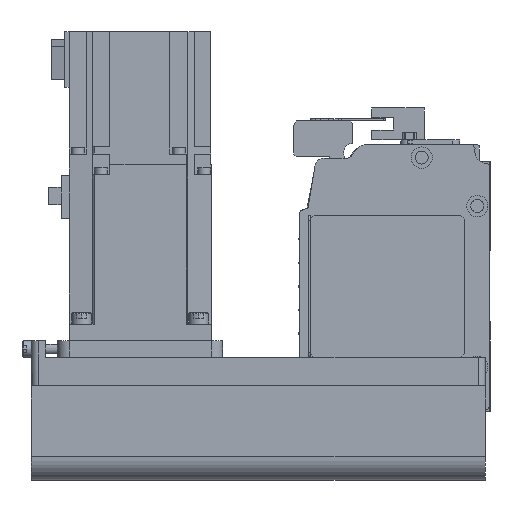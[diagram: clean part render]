
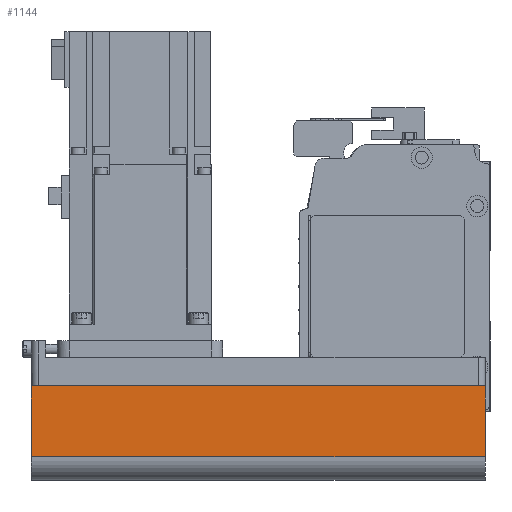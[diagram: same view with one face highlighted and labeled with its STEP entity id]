
A CAD part, left-side view. The second image highlights one B-rep face of the part: STEP entity #1144.
In plain terms, the highlighted planar face has unit normal (-1, 0, 0) as drawn and (0, -1, 0) by its records, which use the part's own axes.
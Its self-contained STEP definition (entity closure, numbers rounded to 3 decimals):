
#1144 = ADVANCED_FACE( '', ( #2805 ), #2806, .T. );
#2805 = FACE_OUTER_BOUND( '', #5149, .T. );
#2806 = PLANE( '', #5150 );
#5149 = EDGE_LOOP( '', ( #8238, #8239, #8240, #8241 ) );
#5150 = AXIS2_PLACEMENT_3D( '', #8242, #8243, #8244 );
#8238 = ORIENTED_EDGE( '', *, *, #14102, .F. );
#8239 = ORIENTED_EDGE( '', *, *, #14103, .F. );
#8240 = ORIENTED_EDGE( '', *, *, #14104, .T. );
#8241 = ORIENTED_EDGE( '', *, *, #14105, .T. );
#8242 = CARTESIAN_POINT( '', ( -192., -40., -12.1 ) );
#8243 = DIRECTION( '', ( 0., -1., 0. ) );
#8244 = DIRECTION( '', ( 0., 0., -1. ) );
#14102 = EDGE_CURVE( '', #17106, #17107, #17108, .T. );
#14103 = EDGE_CURVE( '', #17109, #17106, #17110, .T. );
#14104 = EDGE_CURVE( '', #17109, #17111, #17112, .T. );
#14105 = EDGE_CURVE( '', #17111, #17107, #17113, .T. );
#17106 = VERTEX_POINT( '', #21154 );
#17107 = VERTEX_POINT( '', #21155 );
#17108 = LINE( '', #21156, #21157 );
#17109 = VERTEX_POINT( '', #21158 );
#17110 = LINE( '', #21159, #21160 );
#17111 = VERTEX_POINT( '', #21161 );
#17112 = LINE( '', #21162, #21163 );
#17113 = LINE( '', #21164, #21165 );
#21154 = CARTESIAN_POINT( '', ( 0., -40., -12.1 ) );
#21155 = CARTESIAN_POINT( '', ( 0., -40., -42. ) );
#21156 = CARTESIAN_POINT( '', ( 0., -40., -12.1 ) );
#21157 = VECTOR( '', #25286, 1000. );
#21158 = CARTESIAN_POINT( '', ( -192., -40., -12.1 ) );
#21159 = CARTESIAN_POINT( '', ( -192., -40., -12.1 ) );
#21160 = VECTOR( '', #25287, 1000. );
#21161 = CARTESIAN_POINT( '', ( -192., -40., -42. ) );
#21162 = CARTESIAN_POINT( '', ( -192., -40., -12.1 ) );
#21163 = VECTOR( '', #25288, 1000. );
#21164 = CARTESIAN_POINT( '', ( -192., -40., -42. ) );
#21165 = VECTOR( '', #25289, 1000. );
#25286 = DIRECTION( '', ( 0., 0., -1. ) );
#25287 = DIRECTION( '', ( 1., 0., 0. ) );
#25288 = DIRECTION( '', ( 0., 0., -1. ) );
#25289 = DIRECTION( '', ( 1., 0., 0. ) );
